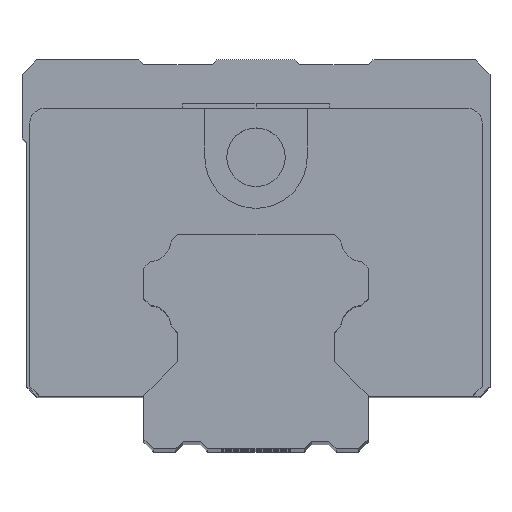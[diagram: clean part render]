
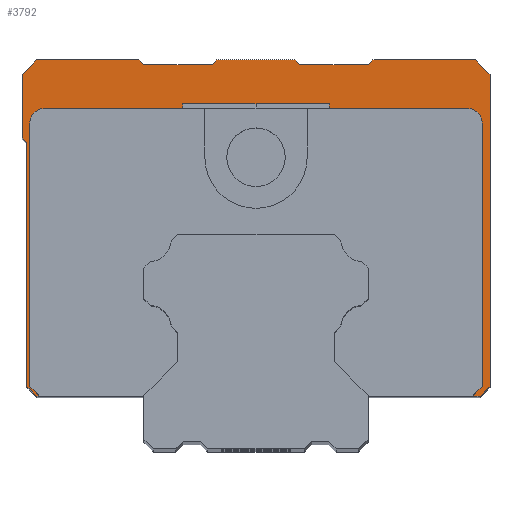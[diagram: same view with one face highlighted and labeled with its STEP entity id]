
A CAD part, top view. The second image highlights one B-rep face of the part: STEP entity #3792.
In plain terms, the highlighted planar face has unit normal (0, 0, 1).
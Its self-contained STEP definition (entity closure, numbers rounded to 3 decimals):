
#1747=DIRECTION('',(1.,0.,0.));
#1748=VECTOR('',#1747,10.5);
#1749=CARTESIAN_POINT('',(-22.5,40.,39.3));
#1750=LINE('',#1749,#1748);
#1751=DIRECTION('',(0.707,-0.707,0.));
#1752=VECTOR('',#1751,0.707);
#1753=CARTESIAN_POINT('',(-12.,40.,39.3));
#1754=LINE('',#1753,#1752);
#1755=DIRECTION('',(0.707,0.707,0.));
#1756=VECTOR('',#1755,0.707);
#1757=CARTESIAN_POINT('',(-4.5,39.5,39.3));
#1758=LINE('',#1757,#1756);
#1759=DIRECTION('',(1.,0.,0.));
#1760=VECTOR('',#1759,8.);
#1761=CARTESIAN_POINT('',(-4.,40.,39.3));
#1762=LINE('',#1761,#1760);
#1763=DIRECTION('',(0.707,-0.707,0.));
#1764=VECTOR('',#1763,0.707);
#1765=CARTESIAN_POINT('',(4.,40.,39.3));
#1766=LINE('',#1765,#1764);
#1767=DIRECTION('',(0.707,0.707,0.));
#1768=VECTOR('',#1767,0.707);
#1769=CARTESIAN_POINT('',(11.5,39.5,39.3));
#1770=LINE('',#1769,#1768);
#1771=DIRECTION('',(1.,0.,0.));
#1772=VECTOR('',#1771,10.5);
#1773=CARTESIAN_POINT('',(12.,40.,39.3));
#1774=LINE('',#1773,#1772);
#1775=DIRECTION('',(0.707,-0.707,0.));
#1776=VECTOR('',#1775,2.121);
#1777=CARTESIAN_POINT('',(22.5,40.,39.3));
#1778=LINE('',#1777,#1776);
#1779=DIRECTION('',(0.,-1.,0.));
#1780=VECTOR('',#1779,32.);
#1781=CARTESIAN_POINT('',(24.,38.5,39.3));
#1782=LINE('',#1781,#1780);
#1783=DIRECTION('',(-0.707,-0.707,0.));
#1784=VECTOR('',#1783,1.414);
#1785=CARTESIAN_POINT('',(24.,6.5,39.3));
#1786=LINE('',#1785,#1784);
#1787=DIRECTION('',(-1.,0.,0.));
#1788=VECTOR('',#1787,0.8);
#1789=CARTESIAN_POINT('',(23.,5.5,39.3));
#1790=LINE('',#1789,#1788);
#1791=DIRECTION('',(0.707,0.707,0.));
#1792=VECTOR('',#1791,1.414);
#1793=CARTESIAN_POINT('',(22.2,5.5,39.3));
#1794=LINE('',#1793,#1792);
#1795=CARTESIAN_POINT('',(21.7,33.5,39.3));
#1796=DIRECTION('',(0.,0.,1.));
#1797=DIRECTION('',(1.,0.,0.));
#1798=AXIS2_PLACEMENT_3D('',#1795,#1796,#1797);
#1800=CARTESIAN_POINT('',(-21.7,33.5,39.3));
#1801=DIRECTION('',(0.,0.,1.));
#1802=DIRECTION('',(0.,1.,0.));
#1803=AXIS2_PLACEMENT_3D('',#1800,#1801,#1802);
#1805=DIRECTION('',(0.707,-0.707,0.));
#1806=VECTOR('',#1805,1.414);
#1807=CARTESIAN_POINT('',(-23.2,6.5,39.3));
#1808=LINE('',#1807,#1806);
#1809=DIRECTION('',(-0.707,0.707,0.));
#1810=VECTOR('',#1809,1.414);
#1811=CARTESIAN_POINT('',(-22.5,5.5,39.3));
#1812=LINE('',#1811,#1810);
#1813=DIRECTION('',(-0.707,0.707,0.));
#1814=VECTOR('',#1813,0.707);
#1815=CARTESIAN_POINT('',(-23.5,31.5,39.3));
#1816=LINE('',#1815,#1814);
#1817=DIRECTION('',(0.,1.,0.));
#1818=VECTOR('',#1817,6.5);
#1819=CARTESIAN_POINT('',(-24.,32.,39.3));
#1820=LINE('',#1819,#1818);
#1821=DIRECTION('',(0.707,0.707,0.));
#1822=VECTOR('',#1821,2.121);
#1823=CARTESIAN_POINT('',(-24.,38.5,39.3));
#1824=LINE('',#1823,#1822);
#1833=DIRECTION('',(-1.,0.,0.));
#1834=VECTOR('',#1833,7.);
#1835=CARTESIAN_POINT('',(-4.5,39.5,39.3));
#1836=LINE('',#1835,#1834);
#1857=DIRECTION('',(-1.,0.,0.));
#1858=VECTOR('',#1857,7.);
#1859=CARTESIAN_POINT('',(11.5,39.5,39.3));
#1860=LINE('',#1859,#1858);
#2245=DIRECTION('',(1.,0.,0.));
#2246=VECTOR('',#2245,0.3);
#2247=CARTESIAN_POINT('',(-22.5,5.5,39.3));
#2248=LINE('',#2247,#2246);
#2508=DIRECTION('',(1.,0.,0.));
#2509=VECTOR('',#2508,14.2);
#2510=CARTESIAN_POINT('',(-21.7,35.,39.3));
#2511=LINE('',#2510,#2509);
#2520=DIRECTION('',(1.,0.,0.));
#2521=VECTOR('',#2520,14.2);
#2522=CARTESIAN_POINT('',(7.5,35.,39.3));
#2523=LINE('',#2522,#2521);
#2587=DIRECTION('',(0.,1.,0.));
#2588=VECTOR('',#2587,27.);
#2589=CARTESIAN_POINT('',(-23.2,6.5,39.3));
#2590=LINE('',#2589,#2588);
#2613=DIRECTION('',(0.,1.,0.));
#2614=VECTOR('',#2613,0.5);
#2615=CARTESIAN_POINT('',(-7.5,35.,39.3));
#2616=LINE('',#2615,#2614);
#2637=DIRECTION('',(1.,0.,0.));
#2638=VECTOR('',#2637,15.);
#2639=CARTESIAN_POINT('',(-7.5,35.5,39.3));
#2640=LINE('',#2639,#2638);
#2651=DIRECTION('',(0.,-1.,0.));
#2652=VECTOR('',#2651,0.5);
#2653=CARTESIAN_POINT('',(7.5,35.5,39.3));
#2654=LINE('',#2653,#2652);
#2806=DIRECTION('',(0.,-1.,0.));
#2807=VECTOR('',#2806,27.);
#2808=CARTESIAN_POINT('',(23.2,33.5,39.3));
#2809=LINE('',#2808,#2807);
#2836=DIRECTION('',(0.,-1.,0.));
#2837=VECTOR('',#2836,25.);
#2838=CARTESIAN_POINT('',(-23.5,31.5,39.3));
#2839=LINE('',#2838,#2837);
#3095=CARTESIAN_POINT('',(-12.,40.,39.3));
#3096=VERTEX_POINT('',#3095);
#3097=CARTESIAN_POINT('',(-22.5,40.,39.3));
#3098=VERTEX_POINT('',#3097);
#3159=CARTESIAN_POINT('',(-24.,32.,39.3));
#3160=CARTESIAN_POINT('',(-24.,38.5,39.3));
#3161=VERTEX_POINT('',#3159);
#3162=VERTEX_POINT('',#3160);
#3163=CARTESIAN_POINT('',(-11.5,39.5,39.3));
#3164=VERTEX_POINT('',#3163);
#3165=CARTESIAN_POINT('',(-4.5,39.5,39.3));
#3166=VERTEX_POINT('',#3165);
#3167=CARTESIAN_POINT('',(-4.,40.,39.3));
#3168=VERTEX_POINT('',#3167);
#3169=CARTESIAN_POINT('',(4.,40.,39.3));
#3170=VERTEX_POINT('',#3169);
#3171=CARTESIAN_POINT('',(4.5,39.5,39.3));
#3172=VERTEX_POINT('',#3171);
#3173=CARTESIAN_POINT('',(11.5,39.5,39.3));
#3174=VERTEX_POINT('',#3173);
#3175=CARTESIAN_POINT('',(12.,40.,39.3));
#3176=VERTEX_POINT('',#3175);
#3177=CARTESIAN_POINT('',(22.5,40.,39.3));
#3178=VERTEX_POINT('',#3177);
#3179=CARTESIAN_POINT('',(24.,38.5,39.3));
#3180=VERTEX_POINT('',#3179);
#3181=CARTESIAN_POINT('',(24.,6.5,39.3));
#3182=VERTEX_POINT('',#3181);
#3183=CARTESIAN_POINT('',(23.,5.5,39.3));
#3184=VERTEX_POINT('',#3183);
#3185=CARTESIAN_POINT('',(22.2,5.5,39.3));
#3186=VERTEX_POINT('',#3185);
#3187=CARTESIAN_POINT('',(23.2,6.5,39.3));
#3188=VERTEX_POINT('',#3187);
#3189=CARTESIAN_POINT('',(23.2,33.5,39.3));
#3190=VERTEX_POINT('',#3189);
#3191=CARTESIAN_POINT('',(21.7,35.,39.3));
#3192=VERTEX_POINT('',#3191);
#3193=CARTESIAN_POINT('',(7.5,35.,39.3));
#3194=VERTEX_POINT('',#3193);
#3195=CARTESIAN_POINT('',(7.5,35.5,39.3));
#3196=VERTEX_POINT('',#3195);
#3197=CARTESIAN_POINT('',(-7.5,35.5,39.3));
#3198=VERTEX_POINT('',#3197);
#3199=CARTESIAN_POINT('',(-7.5,35.,39.3));
#3200=VERTEX_POINT('',#3199);
#3201=CARTESIAN_POINT('',(-21.7,35.,39.3));
#3202=VERTEX_POINT('',#3201);
#3203=CARTESIAN_POINT('',(-23.2,33.5,39.3));
#3204=VERTEX_POINT('',#3203);
#3205=CARTESIAN_POINT('',(-23.2,6.5,39.3));
#3206=VERTEX_POINT('',#3205);
#3207=CARTESIAN_POINT('',(-22.2,5.5,39.3));
#3208=VERTEX_POINT('',#3207);
#3209=CARTESIAN_POINT('',(-22.5,5.5,39.3));
#3210=VERTEX_POINT('',#3209);
#3211=CARTESIAN_POINT('',(-23.5,6.5,39.3));
#3212=VERTEX_POINT('',#3211);
#3213=CARTESIAN_POINT('',(-23.5,31.5,39.3));
#3214=VERTEX_POINT('',#3213);
#3727=CARTESIAN_POINT('',(0.,0.,39.3));
#3728=DIRECTION('',(0.,0.,1.));
#3729=DIRECTION('',(1.,0.,0.));
#3730=AXIS2_PLACEMENT_3D('',#3727,#3728,#3729);
#3731=PLANE('',#3730);
#3732=ORIENTED_EDGE('',*,*,#3628,.T.);
#3734=ORIENTED_EDGE('',*,*,#3733,.T.);
#3736=ORIENTED_EDGE('',*,*,#3735,.F.);
#3738=ORIENTED_EDGE('',*,*,#3737,.T.);
#3740=ORIENTED_EDGE('',*,*,#3739,.T.);
#3742=ORIENTED_EDGE('',*,*,#3741,.T.);
#3744=ORIENTED_EDGE('',*,*,#3743,.F.);
#3746=ORIENTED_EDGE('',*,*,#3745,.T.);
#3748=ORIENTED_EDGE('',*,*,#3747,.T.);
#3750=ORIENTED_EDGE('',*,*,#3749,.T.);
#3752=ORIENTED_EDGE('',*,*,#3751,.T.);
#3754=ORIENTED_EDGE('',*,*,#3753,.T.);
#3756=ORIENTED_EDGE('',*,*,#3755,.T.);
#3758=ORIENTED_EDGE('',*,*,#3757,.T.);
#3760=ORIENTED_EDGE('',*,*,#3759,.F.);
#3762=ORIENTED_EDGE('',*,*,#3761,.T.);
#3764=ORIENTED_EDGE('',*,*,#3763,.F.);
#3766=ORIENTED_EDGE('',*,*,#3765,.F.);
#3768=ORIENTED_EDGE('',*,*,#3767,.F.);
#3770=ORIENTED_EDGE('',*,*,#3769,.F.);
#3772=ORIENTED_EDGE('',*,*,#3771,.F.);
#3774=ORIENTED_EDGE('',*,*,#3773,.T.);
#3776=ORIENTED_EDGE('',*,*,#3775,.F.);
#3778=ORIENTED_EDGE('',*,*,#3777,.T.);
#3780=ORIENTED_EDGE('',*,*,#3779,.F.);
#3782=ORIENTED_EDGE('',*,*,#3781,.T.);
#3784=ORIENTED_EDGE('',*,*,#3783,.F.);
#3786=ORIENTED_EDGE('',*,*,#3785,.T.);
#3787=ORIENTED_EDGE('',*,*,#3717,.T.);
#3789=ORIENTED_EDGE('',*,*,#3788,.T.);
#3790=EDGE_LOOP('',(#3732,#3734,#3736,#3738,#3740,#3742,#3744,#3746,#3748,#3750,
#3752,#3754,#3756,#3758,#3760,#3762,#3764,#3766,#3768,#3770,#3772,#3774,#3776,
#3778,#3780,#3782,#3784,#3786,#3787,#3789));
#3791=FACE_OUTER_BOUND('',#3790,.F.);
#3792=ADVANCED_FACE('',(#3791),#3731,.T.);
#1799=CIRCLE('',#1798,1.5);
#1804=CIRCLE('',#1803,1.5);
#3628=EDGE_CURVE('',#3098,#3096,#1750,.T.);
#3717=EDGE_CURVE('',#3161,#3162,#1820,.T.);
#3733=EDGE_CURVE('',#3096,#3164,#1754,.T.);
#3735=EDGE_CURVE('',#3166,#3164,#1836,.T.);
#3737=EDGE_CURVE('',#3166,#3168,#1758,.T.);
#3739=EDGE_CURVE('',#3168,#3170,#1762,.T.);
#3741=EDGE_CURVE('',#3170,#3172,#1766,.T.);
#3743=EDGE_CURVE('',#3174,#3172,#1860,.T.);
#3745=EDGE_CURVE('',#3174,#3176,#1770,.T.);
#3747=EDGE_CURVE('',#3176,#3178,#1774,.T.);
#3749=EDGE_CURVE('',#3178,#3180,#1778,.T.);
#3751=EDGE_CURVE('',#3180,#3182,#1782,.T.);
#3753=EDGE_CURVE('',#3182,#3184,#1786,.T.);
#3755=EDGE_CURVE('',#3184,#3186,#1790,.T.);
#3757=EDGE_CURVE('',#3186,#3188,#1794,.T.);
#3759=EDGE_CURVE('',#3190,#3188,#2809,.T.);
#3761=EDGE_CURVE('',#3190,#3192,#1799,.T.);
#3763=EDGE_CURVE('',#3194,#3192,#2523,.T.);
#3765=EDGE_CURVE('',#3196,#3194,#2654,.T.);
#3767=EDGE_CURVE('',#3198,#3196,#2640,.T.);
#3769=EDGE_CURVE('',#3200,#3198,#2616,.T.);
#3771=EDGE_CURVE('',#3202,#3200,#2511,.T.);
#3773=EDGE_CURVE('',#3202,#3204,#1804,.T.);
#3775=EDGE_CURVE('',#3206,#3204,#2590,.T.);
#3777=EDGE_CURVE('',#3206,#3208,#1808,.T.);
#3779=EDGE_CURVE('',#3210,#3208,#2248,.T.);
#3781=EDGE_CURVE('',#3210,#3212,#1812,.T.);
#3783=EDGE_CURVE('',#3214,#3212,#2839,.T.);
#3785=EDGE_CURVE('',#3214,#3161,#1816,.T.);
#3788=EDGE_CURVE('',#3162,#3098,#1824,.T.);
